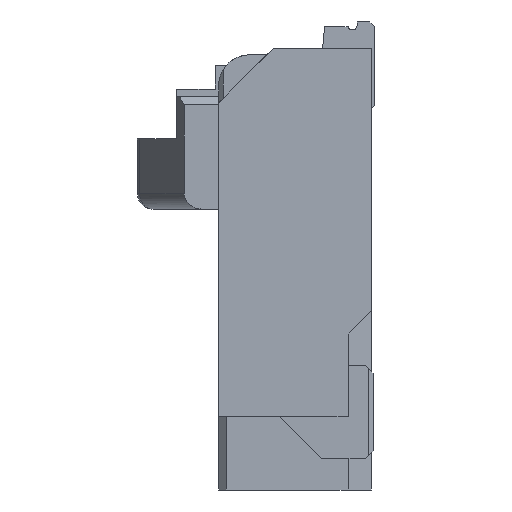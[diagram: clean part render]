
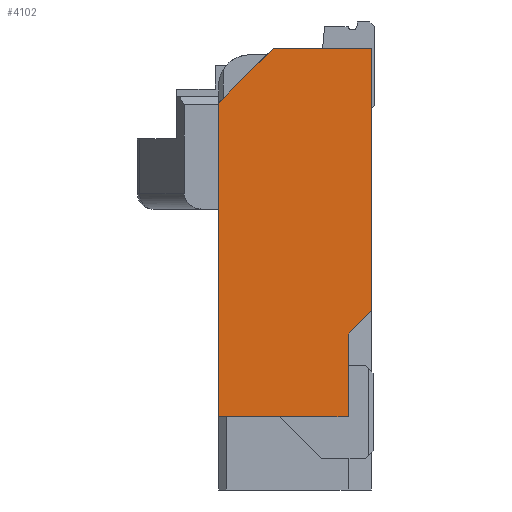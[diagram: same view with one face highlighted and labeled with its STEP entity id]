
A CAD part, left-side view. The second image highlights one B-rep face of the part: STEP entity #4102.
In plain terms, the highlighted planar face has unit normal (-1, 0, 0).
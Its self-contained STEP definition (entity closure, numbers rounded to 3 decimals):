
#260 = VECTOR ( 'NONE', #2112, 1000. ) ;
#264 = VECTOR ( 'NONE', #2140, 1000. ) ;
#265 = VECTOR ( 'NONE', #2124, 1000. ) ;
#268 = VECTOR ( 'NONE', #2160, 1000. ) ;
#363 = VECTOR ( 'NONE', #2363, 1000. ) ;
#808 = LINE ( 'NONE', #825, #6812 ) ;
#825 = CARTESIAN_POINT ( 'NONE',  ( 1.15, 1., -1.2 ) ) ;
#826 = DIRECTION ( 'NONE',  ( 0., 0., 1. ) ) ;
#1115 = LINE ( 'NONE', #1116, #6789 ) ;
#1116 = CARTESIAN_POINT ( 'NONE',  ( 1.15, 0.02, -0.17 ) ) ;
#1117 = DIRECTION ( 'NONE',  ( 0., 0., -1. ) ) ;
#1333 = CARTESIAN_POINT ( 'NONE',  ( 1.15, 0.53, -3. ) ) ;
#1337 = FACE_OUTER_BOUND ( 'NONE', #8188, .T. ) ;
#1341 = PLANE ( 'NONE',  #8553 ) ;
#1342 = DIRECTION ( 'NONE',  ( 1., 0., 0. ) ) ;
#1343 = DIRECTION ( 'NONE',  ( 0., 0., 1. ) ) ;
#2101 = LINE ( 'NONE', #2102, #260 ) ;
#2102 = CARTESIAN_POINT ( 'NONE',  ( 1.15, 0.02, -0.17 ) ) ;
#2112 = DIRECTION ( 'NONE',  ( 0., -1., 0. ) ) ;
#2122 = LINE ( 'NONE', #2123, #265 ) ;
#2123 = CARTESIAN_POINT ( 'NONE',  ( 1.15, 0.17, -2.53 ) ) ;
#2124 = DIRECTION ( 'NONE',  ( 0., 1., 0. ) ) ;
#2129 = LINE ( 'NONE', #2139, #264 ) ;
#2139 = CARTESIAN_POINT ( 'NONE',  ( 1.15, 0.17, -3. ) ) ;
#2140 = DIRECTION ( 'NONE',  ( 0., 0., 1. ) ) ;
#2150 = LINE ( 'NONE', #2159, #268 ) ;
#2159 = CARTESIAN_POINT ( 'NONE',  ( 1.15, 1., -0.52 ) ) ;
#2160 = DIRECTION ( 'NONE',  ( 0., -0.707, 0.707 ) ) ;
#2361 = LINE ( 'NONE', #2362, #363 ) ;
#2362 = CARTESIAN_POINT ( 'NONE',  ( 1.15, 0.17, -2. ) ) ;
#2363 = DIRECTION ( 'NONE',  ( 0., 0.707, -0.707 ) ) ;
#2449 = CARTESIAN_POINT ( 'NONE',  ( 1.15, 0.65, -0.17 ) ) ;
#2470 = CARTESIAN_POINT ( 'NONE',  ( 1.15, 1., -2.53 ) ) ;
#2501 = CARTESIAN_POINT ( 'NONE',  ( 1.15, 0.02, -0.17 ) ) ;
#2504 = CARTESIAN_POINT ( 'NONE',  ( 1.15, 0.17, -2.53 ) ) ;
#2534 = CARTESIAN_POINT ( 'NONE',  ( 1.15, 0.02, -1.85 ) ) ;
#2567 = CARTESIAN_POINT ( 'NONE',  ( 1.15, 1., -0.52 ) ) ;
#2597 = CARTESIAN_POINT ( 'NONE',  ( 1.15, 0.17, -2. ) ) ;
#3933 = EDGE_CURVE ( 'NONE', #5777, #5874, #808, .T. ) ;
#4030 = EDGE_CURVE ( 'NONE', #5808, #5841, #1115, .T. ) ;
#4102 = ADVANCED_FACE ( 'NONE', ( #1337 ), #1341, .F. ) ;
#4558 = EDGE_CURVE ( 'NONE', #5756, #5808, #2101, .T. ) ;
#4562 = EDGE_CURVE ( 'NONE', #5811, #5777, #2122, .T. ) ;
#4567 = EDGE_CURVE ( 'NONE', #5811, #5904, #2129, .T. ) ;
#4573 = EDGE_CURVE ( 'NONE', #5874, #5756, #2150, .T. ) ;
#4638 = EDGE_CURVE ( 'NONE', #5841, #5904, #2361, .T. ) ;
#4853 = ORIENTED_EDGE ( 'NONE', *, *, #4638, .F. ) ;
#4854 = ORIENTED_EDGE ( 'NONE', *, *, #4030, .F. ) ;
#4855 = ORIENTED_EDGE ( 'NONE', *, *, #4558, .F. ) ;
#4856 = ORIENTED_EDGE ( 'NONE', *, *, #4573, .F. ) ;
#4857 = ORIENTED_EDGE ( 'NONE', *, *, #3933, .F. ) ;
#4858 = ORIENTED_EDGE ( 'NONE', *, *, #4562, .F. ) ;
#4859 = ORIENTED_EDGE ( 'NONE', *, *, #4567, .T. ) ;
#5756 = VERTEX_POINT ( 'NONE', #2449 ) ;
#5777 = VERTEX_POINT ( 'NONE', #2470 ) ;
#5808 = VERTEX_POINT ( 'NONE', #2501 ) ;
#5811 = VERTEX_POINT ( 'NONE', #2504 ) ;
#5841 = VERTEX_POINT ( 'NONE', #2534 ) ;
#5874 = VERTEX_POINT ( 'NONE', #2567 ) ;
#5904 = VERTEX_POINT ( 'NONE', #2597 ) ;
#6789 = VECTOR ( 'NONE', #1117, 1000. ) ;
#6812 = VECTOR ( 'NONE', #826, 1000. ) ;
#8188 = EDGE_LOOP ( 'NONE', ( #4853, #4854, #4855, #4856, #4857, #4858, #4859 ) ) ;
#8553 = AXIS2_PLACEMENT_3D ( 'NONE', #1333, #1342, #1343 ) ;
